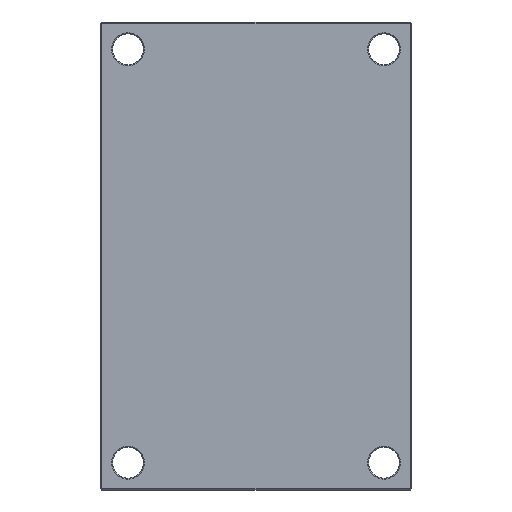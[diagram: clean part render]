
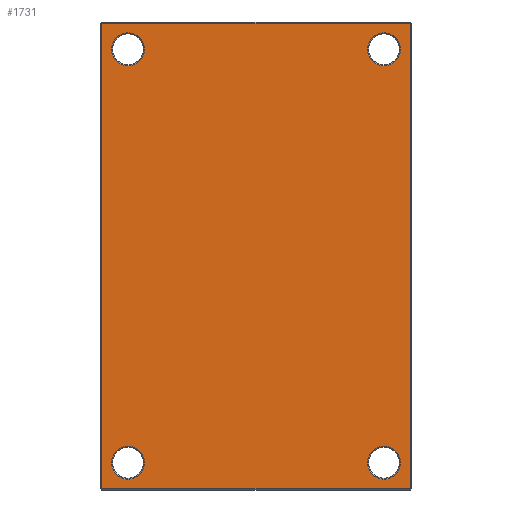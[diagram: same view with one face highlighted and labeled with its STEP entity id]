
A CAD part, front view. The second image highlights one B-rep face of the part: STEP entity #1731.
In plain terms, the highlighted planar face has unit normal (0, -1, 0).
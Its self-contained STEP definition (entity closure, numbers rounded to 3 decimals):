
#5 = DIRECTION ( 'NONE',  ( 0., 0., 1. ) ) ;
#24 = CARTESIAN_POINT ( 'NONE',  ( -122., 0., -197. ) ) ;
#25 = ORIENTED_EDGE ( 'NONE', *, *, #469, .T. ) ;
#38 = VECTOR ( 'NONE', #1405, 1000. ) ;
#47 = CARTESIAN_POINT ( 'NONE',  ( -147., 0., 0. ) ) ;
#48 = DIRECTION ( 'NONE',  ( 0., 1., 0. ) ) ;
#59 = FACE_OUTER_BOUND ( 'NONE', #1740, .T. ) ;
#66 = CIRCLE ( 'NONE', #1314, 15.7 ) ;
#88 = DIRECTION ( 'NONE',  ( 0., 0., 1. ) ) ;
#102 = VERTEX_POINT ( 'NONE', #761 ) ;
#109 = VERTEX_POINT ( 'NONE', #619 ) ;
#111 = CARTESIAN_POINT ( 'NONE',  ( 122., 0., -197. ) ) ;
#114 = DIRECTION ( 'NONE',  ( 0., 1., 0. ) ) ;
#121 = DIRECTION ( 'NONE',  ( 0., 0., 1. ) ) ;
#139 = ORIENTED_EDGE ( 'NONE', *, *, #813, .T. ) ;
#151 = VERTEX_POINT ( 'NONE', #1546 ) ;
#168 = AXIS2_PLACEMENT_3D ( 'NONE', #1965, #1943, #1934 ) ;
#208 = CARTESIAN_POINT ( 'NONE',  ( 122., 0., -181.3 ) ) ;
#247 = CARTESIAN_POINT ( 'NONE',  ( -122., 0., 197. ) ) ;
#279 = ORIENTED_EDGE ( 'NONE', *, *, #886, .T. ) ;
#288 = DIRECTION ( 'NONE',  ( 0., 1., 0. ) ) ;
#297 = DIRECTION ( 'NONE',  ( 0., 0., 1. ) ) ;
#314 = CIRCLE ( 'NONE', #2011, 15.7 ) ;
#317 = ORIENTED_EDGE ( 'NONE', *, *, #1010, .T. ) ;
#321 = ORIENTED_EDGE ( 'NONE', *, *, #975, .T. ) ;
#331 = VERTEX_POINT ( 'NONE', #384 ) ;
#343 = CARTESIAN_POINT ( 'NONE',  ( 147., 0., 0. ) ) ;
#384 = CARTESIAN_POINT ( 'NONE',  ( -147., 0., -222. ) ) ;
#400 = CIRCLE ( 'NONE', #1274, 15.7 ) ;
#414 = FACE_BOUND ( 'NONE', #666, .T. ) ;
#441 = EDGE_CURVE ( 'NONE', #151, #1693, #1720, .T. ) ;
#469 = EDGE_CURVE ( 'NONE', #331, #892, #902, .T. ) ;
#479 = VERTEX_POINT ( 'NONE', #2010 ) ;
#572 = CIRCLE ( 'NONE', #1321, 15.7 ) ;
#619 = CARTESIAN_POINT ( 'NONE',  ( -122., 0., 181.3 ) ) ;
#639 = AXIS2_PLACEMENT_3D ( 'NONE', #1938, #1797, #2083 ) ;
#653 = ORIENTED_EDGE ( 'NONE', *, *, #1371, .T. ) ;
#666 = EDGE_LOOP ( 'NONE', ( #1890, #2125 ) ) ;
#698 = EDGE_CURVE ( 'NONE', #109, #859, #400, .T. ) ;
#761 = CARTESIAN_POINT ( 'NONE',  ( -147., 0., 222. ) ) ;
#790 = VERTEX_POINT ( 'NONE', #1473 ) ;
#796 = ORIENTED_EDGE ( 'NONE', *, *, #967, .T. ) ;
#812 = CARTESIAN_POINT ( 'NONE',  ( -122., 0., 197. ) ) ;
#813 = EDGE_CURVE ( 'NONE', #2133, #790, #1364, .T. ) ;
#824 = DIRECTION ( 'NONE',  ( 0., 0., 1. ) ) ;
#835 = VECTOR ( 'NONE', #2150, 1000. ) ;
#847 = DIRECTION ( 'NONE',  ( 0., 0., 1. ) ) ;
#859 = VERTEX_POINT ( 'NONE', #1524 ) ;
#865 = CARTESIAN_POINT ( 'NONE',  ( 122., 0., 181.3 ) ) ;
#886 = EDGE_CURVE ( 'NONE', #892, #479, #2073, .T. ) ;
#892 = VERTEX_POINT ( 'NONE', #2008 ) ;
#902 = LINE ( 'NONE', #2172, #835 ) ;
#930 = EDGE_CURVE ( 'NONE', #479, #102, #1483, .T. ) ;
#960 = EDGE_CURVE ( 'NONE', #790, #2133, #572, .T. ) ;
#964 = CIRCLE ( 'NONE', #1310, 15.7 ) ;
#967 = EDGE_CURVE ( 'NONE', #102, #331, #1054, .T. ) ;
#975 = EDGE_CURVE ( 'NONE', #859, #109, #66, .T. ) ;
#1010 = EDGE_CURVE ( 'NONE', #1550, #1370, #964, .T. ) ;
#1012 = EDGE_CURVE ( 'NONE', #1693, #151, #314, .T. ) ;
#1054 = LINE ( 'NONE', #47, #38 ) ;
#1106 = DIRECTION ( 'NONE',  ( 0., 1., 0. ) ) ;
#1119 = VECTOR ( 'NONE', #1399, 1000. ) ;
#1128 = ORIENTED_EDGE ( 'NONE', *, *, #960, .T. ) ;
#1191 = CARTESIAN_POINT ( 'NONE',  ( 122., 0., 197. ) ) ;
#1196 = DIRECTION ( 'NONE',  ( 0., 1., 0. ) ) ;
#1237 = AXIS2_PLACEMENT_3D ( 'NONE', #1757, #1759, #1763 ) ;
#1274 = AXIS2_PLACEMENT_3D ( 'NONE', #812, #1106, #824 ) ;
#1310 = AXIS2_PLACEMENT_3D ( 'NONE', #24, #48, #88 ) ;
#1314 = AXIS2_PLACEMENT_3D ( 'NONE', #247, #288, #297 ) ;
#1321 = AXIS2_PLACEMENT_3D ( 'NONE', #1332, #1842, #5 ) ;
#1332 = CARTESIAN_POINT ( 'NONE',  ( 122., 0., 197. ) ) ;
#1364 = CIRCLE ( 'NONE', #1395, 15.7 ) ;
#1370 = VERTEX_POINT ( 'NONE', #1735 ) ;
#1371 = EDGE_CURVE ( 'NONE', #1370, #1550, #1601, .T. ) ;
#1378 = DIRECTION ( 'NONE',  ( 0., 0., 1. ) ) ;
#1395 = AXIS2_PLACEMENT_3D ( 'NONE', #1191, #1196, #847 ) ;
#1399 = DIRECTION ( 'NONE',  ( -1., 0., 0. ) ) ;
#1405 = DIRECTION ( 'NONE',  ( 0., 0., -1. ) ) ;
#1411 = FACE_BOUND ( 'NONE', #1754, .T. ) ;
#1447 = ORIENTED_EDGE ( 'NONE', *, *, #930, .T. ) ;
#1457 = FACE_BOUND ( 'NONE', #1523, .T. ) ;
#1473 = CARTESIAN_POINT ( 'NONE',  ( 122., 0., 212.7 ) ) ;
#1483 = LINE ( 'NONE', #1602, #1119 ) ;
#1523 = EDGE_LOOP ( 'NONE', ( #1961, #321 ) ) ;
#1524 = CARTESIAN_POINT ( 'NONE',  ( -122., 0., 212.7 ) ) ;
#1546 = CARTESIAN_POINT ( 'NONE',  ( 122., 0., -212.7 ) ) ;
#1550 = VERTEX_POINT ( 'NONE', #2102 ) ;
#1601 = CIRCLE ( 'NONE', #168, 15.7 ) ;
#1602 = CARTESIAN_POINT ( 'NONE',  ( 0., 0., 222. ) ) ;
#1693 = VERTEX_POINT ( 'NONE', #208 ) ;
#1720 = CIRCLE ( 'NONE', #1237, 15.7 ) ;
#1731 = ADVANCED_FACE ( 'NONE', ( #1411, #414, #1841, #1457, #59 ), #1817, .F. ) ;
#1735 = CARTESIAN_POINT ( 'NONE',  ( -122., 0., -212.7 ) ) ;
#1740 = EDGE_LOOP ( 'NONE', ( #279, #1447, #796, #25 ) ) ;
#1754 = EDGE_LOOP ( 'NONE', ( #653, #317 ) ) ;
#1757 = CARTESIAN_POINT ( 'NONE',  ( 122., 0., -197. ) ) ;
#1759 = DIRECTION ( 'NONE',  ( 0., 1., 0. ) ) ;
#1763 = DIRECTION ( 'NONE',  ( 0., 0., 1. ) ) ;
#1797 = DIRECTION ( 'NONE',  ( 0., 1., 0. ) ) ;
#1817 = PLANE ( 'NONE',  #639 ) ;
#1841 = FACE_BOUND ( 'NONE', #2138, .T. ) ;
#1842 = DIRECTION ( 'NONE',  ( 0., 1., 0. ) ) ;
#1890 = ORIENTED_EDGE ( 'NONE', *, *, #441, .T. ) ;
#1934 = DIRECTION ( 'NONE',  ( 0., 0., 1. ) ) ;
#1938 = CARTESIAN_POINT ( 'NONE',  ( 0., 0., 0. ) ) ;
#1943 = DIRECTION ( 'NONE',  ( 0., 1., 0. ) ) ;
#1961 = ORIENTED_EDGE ( 'NONE', *, *, #698, .T. ) ;
#1965 = CARTESIAN_POINT ( 'NONE',  ( -122., 0., -197. ) ) ;
#2002 = VECTOR ( 'NONE', #1378, 1000. ) ;
#2008 = CARTESIAN_POINT ( 'NONE',  ( 147., 0., -222. ) ) ;
#2010 = CARTESIAN_POINT ( 'NONE',  ( 147., 0., 222. ) ) ;
#2011 = AXIS2_PLACEMENT_3D ( 'NONE', #111, #114, #121 ) ;
#2073 = LINE ( 'NONE', #343, #2002 ) ;
#2083 = DIRECTION ( 'NONE',  ( 0., 0., 1. ) ) ;
#2102 = CARTESIAN_POINT ( 'NONE',  ( -122., 0., -181.3 ) ) ;
#2125 = ORIENTED_EDGE ( 'NONE', *, *, #1012, .T. ) ;
#2133 = VERTEX_POINT ( 'NONE', #865 ) ;
#2138 = EDGE_LOOP ( 'NONE', ( #139, #1128 ) ) ;
#2150 = DIRECTION ( 'NONE',  ( 1., 0., 0. ) ) ;
#2172 = CARTESIAN_POINT ( 'NONE',  ( 0., 0., -222. ) ) ;
